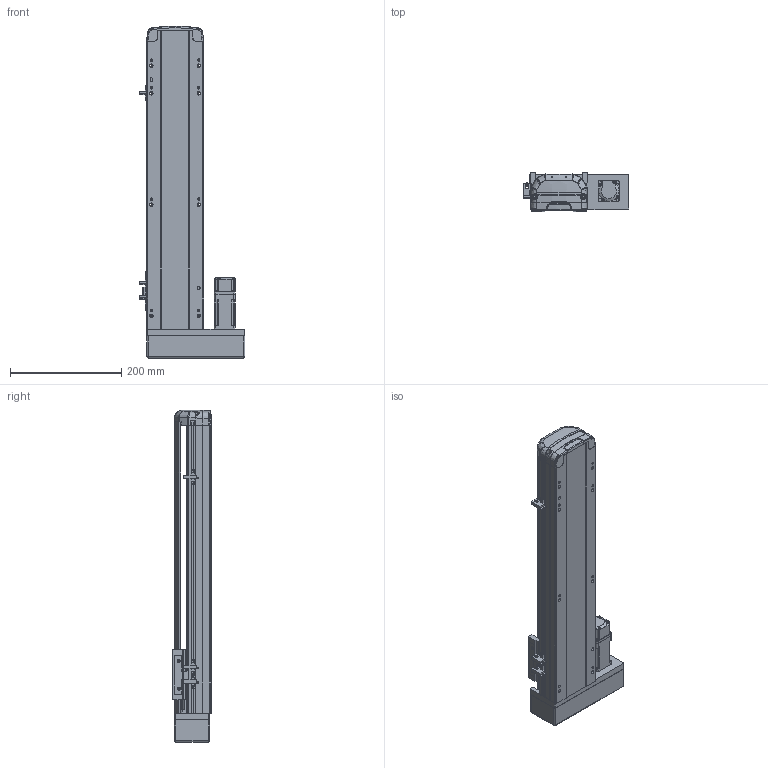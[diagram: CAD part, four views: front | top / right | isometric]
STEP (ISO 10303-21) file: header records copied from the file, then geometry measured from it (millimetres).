
FILE_DESCRIPTION (( 'STEP AP214' ), '1' );
FILE_NAME ('RTH10-XX-350-R-M10-C4.STEP', '2025-10-25T05:53:10', ( 'Microsoft' ), ( 'Microsoft' ), 'SwSTEP 2.0', 'SolidWorks 2018', '' );
FILE_SCHEMA (( 'AUTOMOTIVE_DESIGN' ));
Length unit declared in the file: millimetre
Products named in the file (10): RTH10-XX-350-R-M10-C4; N_OMRON EE-SX672 传感器^RTH10-XX-100-R-M10-C4; N_RTH13-L-012覜茼え俋离^RTH10-XX-100-R-M10-C4; N_RTH12-L-018-裔赽^RTH10-XX-100-R-M10-C4; N_RTH12-GY-004-賑釱^RTH10-XX-100-R-M10-C4; N_RTH12-M-007P-奻裔^RTH10-XX-100-R-M10-C4; N_RTH12-L-008萇儂啣^RTH10-XX-100-R-M10-C4; N_RTH12-GY-001P^RTH10-XX-100-R-M10-C4; N_RTH12-M-011P-臏倰第菁釱^RTH10-XX-100-R-M10-C4; N_P10^RTH10-XX-100-R-M10-C4
Assembly tree (11 placements, depth 2):
  RTH10-XX-350-R-M10-C4
    N_RTH12-M-011P-臏倰第菁釱^RTH10-XX-100-R-M10-C4
    N_RTH13-L-012覜茼え俋离^RTH10-XX-100-R-M10-C4
    N_OMRON EE-SX672 传感器^RTH10-XX-100-R-M10-C4  x3
    N_P10^RTH10-XX-100-R-M10-C4
    N_RTH12-M-007P-奻裔^RTH10-XX-100-R-M10-C4
    N_RTH12-L-008萇儂啣^RTH10-XX-100-R-M10-C4
    N_RTH12-L-018-裔赽^RTH10-XX-100-R-M10-C4
    N_RTH12-GY-004-賑釱^RTH10-XX-100-R-M10-C4
    N_RTH12-GY-001P^RTH10-XX-100-R-M10-C4
Bounding box: 190 x 70 x 597.31 mm (x, y, z)
Volume: 2828401.8 mm3; surface area: 448434.4 mm2
Topology: 10 solids, 12 shells, 1900 faces, 5290 edges, 3469 vertices
Faces by surface type: plane 943, bspline 472, cylinder 450, cone 29, sphere 4, torus 2
Entity records: 56926 total; most frequent: CARTESIAN_POINT 22869, ORIENTED_EDGE 7652, DIRECTION 5832, EDGE_CURVE 3832, VERTEX_POINT 2513, VECTOR 2016, LINE 2016, AXIS2_PLACEMENT_3D 1908
